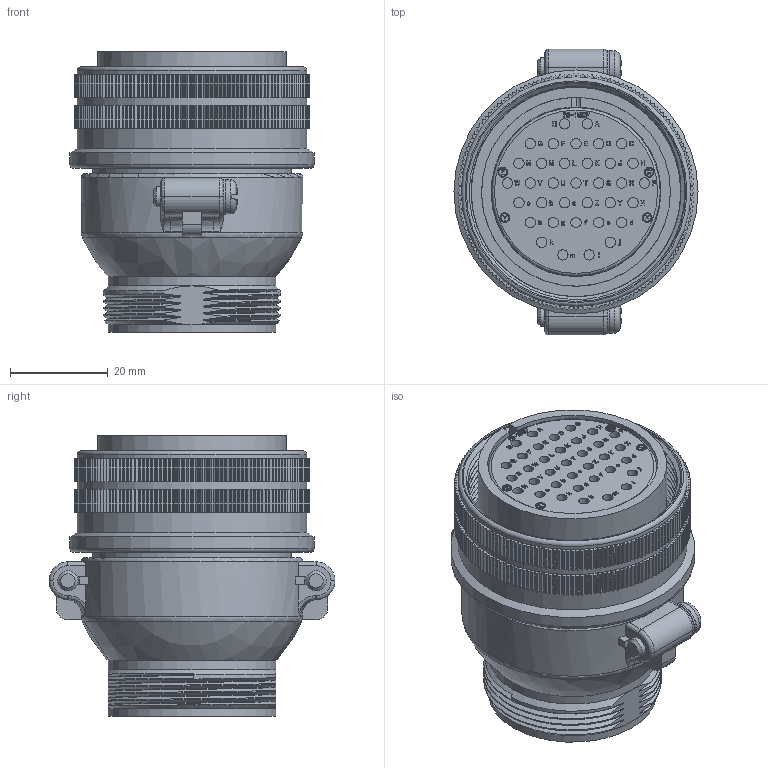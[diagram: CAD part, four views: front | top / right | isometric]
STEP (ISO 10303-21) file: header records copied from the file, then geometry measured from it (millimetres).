
FILE_DESCRIPTION (( 'STEP AP203' ), '1' );
FILE_NAME ('DMS3106B28-15S.STEP', '2021-03-04T06:58:50', ( '' ), ( '' ), 'SwSTEP 2.0', 'SolidWorks 2018', '' );
FILE_SCHEMA (( 'CONFIG_CONTROL_DESIGN' ));
Length unit declared in the file: millimetre
Products named in the file (1): DMS3106B28-15S
Bounding box: 49.95 x 58.54 x 57.51 mm (x, y, z)
Volume: 57265.3 mm3; surface area: 35652.9 mm2
Topology: 1 solids, 1 shells, 4528 faces, 12717 edges, 8462 vertices
Faces by surface type: plane 2122, cylinder 1673, bspline 686, torus 23, cone 17, sphere 7
Full cylindrical faces by diameter (mm): 1.6 x4, 2 x4, 2.11 x35, 3.81 x31, 4.14 x2, 7 x2, 7.2 x2, 34.3 x2, 34.41 x1, 34.75 x1, 36.35 x1, 38.65 x1, 40.7 x1, 41.12 x1, 41.25 x1, 41.28 x1, 42.9 x1, 43.5 x1, 45.34 x1, 47 x3, 49.95 x1
Entity records: 175499 total; most frequent: CARTESIAN_POINT 61639, ORIENTED_EDGE 25160, DIRECTION 21745, EDGE_CURVE 12580, VERTEX_POINT 8435, LINE 7435, VECTOR 7435, AXIS2_PLACEMENT_3D 7155
